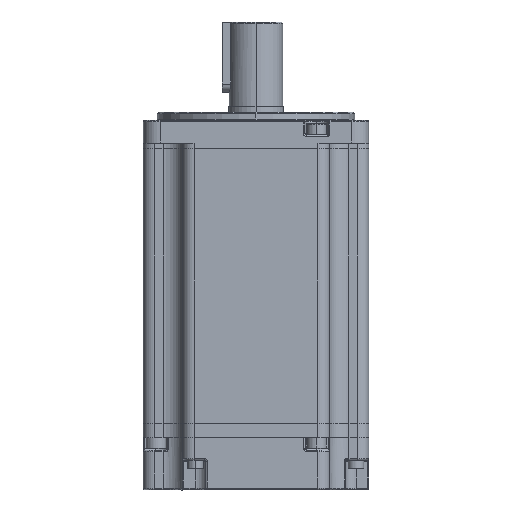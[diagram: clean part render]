
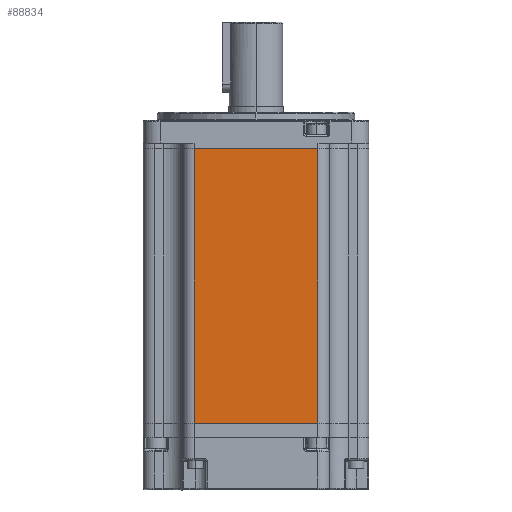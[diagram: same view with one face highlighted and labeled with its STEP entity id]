
A CAD part, top view. The second image highlights one B-rep face of the part: STEP entity #88834.
In plain terms, the highlighted planar face has unit normal (0, 0, 1) as drawn and (-1, 0, 0) by its records, which use the part's own axes.
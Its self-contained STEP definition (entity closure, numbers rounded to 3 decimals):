
#11513 = ORIENTED_EDGE ( 'NONE', *, *, #140945, .F. ) ;
#11835 = ORIENTED_EDGE ( 'NONE', *, *, #102594, .T. ) ;
#14324 = LINE ( 'NONE', #62314, #74498 ) ;
#14939 = VECTOR ( 'NONE', #117535, 1000. ) ;
#15885 = EDGE_CURVE ( 'NONE', #53497, #44799, #14324, .T. ) ;
#22561 = DIRECTION ( 'NONE',  ( 0., 0., -1. ) ) ;
#23045 = PLANE ( 'NONE',  #136536 ) ;
#23495 = VECTOR ( 'NONE', #113933, 1000. ) ;
#23767 = CARTESIAN_POINT ( 'NONE',  ( -40., 22., 0. ) ) ;
#24747 = VECTOR ( 'NONE', #134020, 1000. ) ;
#25306 = LINE ( 'NONE', #130065, #14939 ) ;
#40121 = FACE_OUTER_BOUND ( 'NONE', #108368, .T. ) ;
#44799 = VERTEX_POINT ( 'NONE', #90546 ) ;
#45352 = CARTESIAN_POINT ( 'NONE',  ( -40., 22., 97.5 ) ) ;
#46053 = CARTESIAN_POINT ( 'NONE',  ( -40., -22., 97.5 ) ) ;
#51463 = ORIENTED_EDGE ( 'NONE', *, *, #67361, .T. ) ;
#53497 = VERTEX_POINT ( 'NONE', #57615 ) ;
#57615 = CARTESIAN_POINT ( 'NONE',  ( -40., -22., 97.5 ) ) ;
#62314 = CARTESIAN_POINT ( 'NONE',  ( -40., -22., 97.5 ) ) ;
#67361 = EDGE_CURVE ( 'NONE', #78444, #115842, #112624, .T. ) ;
#74498 = VECTOR ( 'NONE', #139539, 1000. ) ;
#77381 = DIRECTION ( 'NONE',  ( 1., 0., 0. ) ) ;
#78444 = VERTEX_POINT ( 'NONE', #98076 ) ;
#82073 = LINE ( 'NONE', #103358, #23495 ) ;
#88834 = ADVANCED_FACE ( 'NONE', ( #40121 ), #23045, .F. ) ;
#90546 = CARTESIAN_POINT ( 'NONE',  ( -40., -22., 0. ) ) ;
#98076 = CARTESIAN_POINT ( 'NONE',  ( -40., 22., 97.5 ) ) ;
#102594 = EDGE_CURVE ( 'NONE', #115842, #44799, #25306, .T. ) ;
#103358 = CARTESIAN_POINT ( 'NONE',  ( -40., -22., 97.5 ) ) ;
#108368 = EDGE_LOOP ( 'NONE', ( #11835, #114167, #11513, #51463 ) ) ;
#112624 = LINE ( 'NONE', #45352, #24747 ) ;
#113933 = DIRECTION ( 'NONE',  ( 0., -1., 0. ) ) ;
#114167 = ORIENTED_EDGE ( 'NONE', *, *, #15885, .F. ) ;
#115842 = VERTEX_POINT ( 'NONE', #23767 ) ;
#117535 = DIRECTION ( 'NONE',  ( 0., -1., 0. ) ) ;
#130065 = CARTESIAN_POINT ( 'NONE',  ( -40., -22., 0. ) ) ;
#134020 = DIRECTION ( 'NONE',  ( 0., 0., -1. ) ) ;
#136536 = AXIS2_PLACEMENT_3D ( 'NONE', #46053, #77381, #22561 ) ;
#139539 = DIRECTION ( 'NONE',  ( 0., 0., -1. ) ) ;
#140945 = EDGE_CURVE ( 'NONE', #78444, #53497, #82073, .T. ) ;
